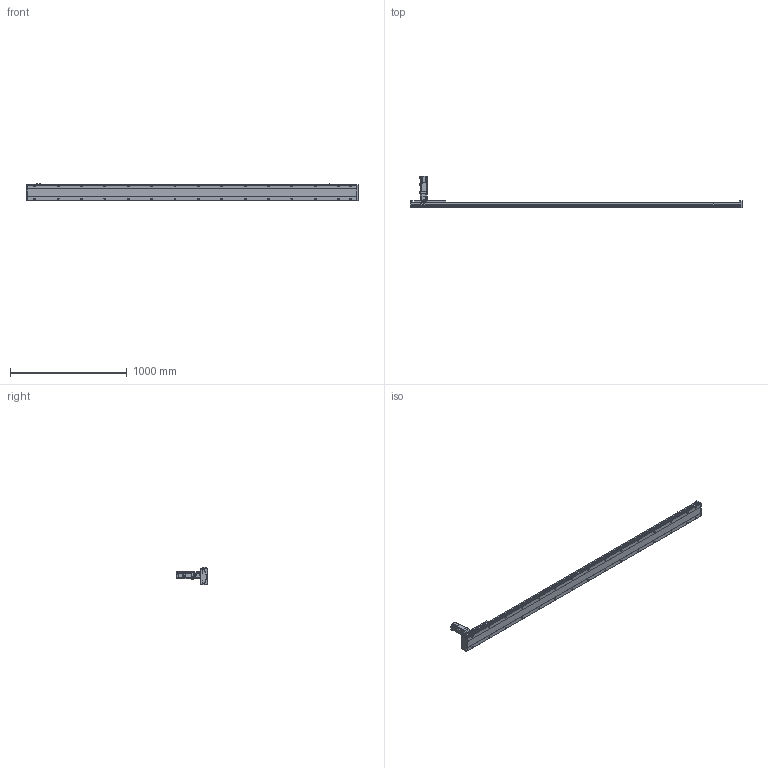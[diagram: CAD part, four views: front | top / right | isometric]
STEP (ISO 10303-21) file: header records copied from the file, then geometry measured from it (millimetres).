
FILE_DESCRIPTION(/* description */ ('STEP AP203'),/* implementation_level */ '2;1');
FILE_NAME(/* name */ 'SHS14A-L10-S2500-BC-T40-C1-N(0)',/* time_stamp */ '2023-03-27T08:50:36+02:00',/* author */ ('License CC BY-ND 4.0'),/* organization */ ('CADENAS'),/* preprocessor_version */ 'ST-DEVELOPER v19.3',/* originating_system */ 'PARTsolutions',/* authorisation */ ' ');
FILE_SCHEMA (('CONFIG_CONTROL_DESIGN'));
Length unit declared in the file: millimetre
Products named in the file (7): SHS14A-L10-S2500-BC-T40-C1-N(0); PSC140-sensor; T40-p1; SHS14AT_body3; SHS14A-2500_slider; SHS14A_body2; SHS14A-S2500-BC-T40-C1(0)_body
Assembly tree (13 placements, depth 2):
  SHS14A-L10-S2500-BC-T40-C1-N(0)
    PSC140-sensor  x3
    T40-p1
    SHS14AT_body3
    SHS14A-2500_slider
    SHS14A_body2  x6
    SHS14A-S2500-BC-T40-C1(0)_body
Bounding box: 2840 x 272.7 x 150.9 mm (x, y, z)
Volume: 11792125.1 mm3; surface area: 1839499.3 mm2
Topology: 13 solids, 13 shells, 2140 faces, 5463 edges, 3572 vertices
Faces by surface type: plane 1485, cylinder 563, cone 82, torus 10
Full cylindrical faces by diameter (mm): 2.8 x3, 4.134 x24, 4.2 x7, 4.4 x24, 4.5 x24, 4.6 x3, 4.8 x24, 4.917 x38, 5 x8, 5.5 x11, 5.94 x6, 6 x2, 6.6 x30, 8 x24, 8.49 x4, 8.5 x4, 9 x4, 10.5 x30, 13.964 x1, 14 x1, 14.182 x1, 16 x1, 18.974 x1, 19.274 x1, 19.774 x1, 19.8 x1, 34.442 x1, 42 x1, 50 x5
Entity records: 34680 total; most frequent: CARTESIAN_POINT 6192, DIRECTION 5861, ORIENTED_EDGE 5382, EDGE_CURVE 2691, AXIS2_PLACEMENT_3D 2049, VERTEX_POINT 1924, EDGE_LOOP 1769, FACE_BOUND 1769
